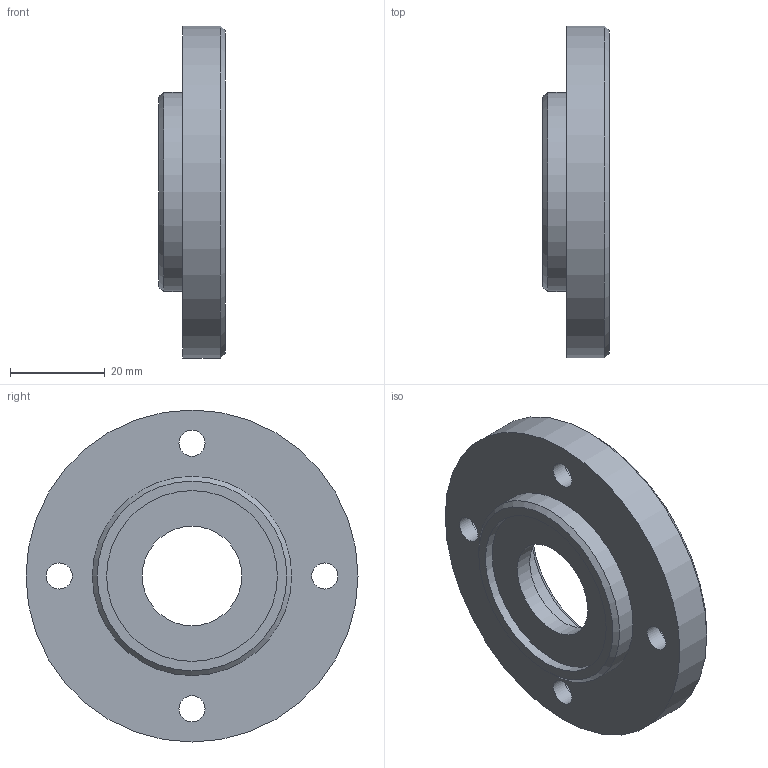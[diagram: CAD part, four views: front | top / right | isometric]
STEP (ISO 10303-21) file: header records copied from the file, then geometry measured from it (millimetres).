
FILE_DESCRIPTION(/* description */ (''),/* implementation_level */ '2;1');
FILE_NAME(/* name */ '',/* time_stamp */ '2024-09-10T16:17:33+09:00',/* author */ ('jhkim'),/* organization */ (''),/* preprocessor_version */ 'ST-DEVELOPER v20',/* originating_system */ 'Autodesk Inventor 2025',/* authorisation */ '');
FILE_SCHEMA (('AUTOMOTIVE_DESIGN { 1 0 10303 214 3 1 1 }'));
Length unit declared in the file: millimetre
Products named in the file (1): 커버
Bounding box: 14 x 70 x 70 mm (x, y, z)
Volume: 28007.7 mm3; surface area: 11509.6 mm2
Topology: 1 solids, 1 shells, 26 faces, 48 edges, 31 vertices
Faces by surface type: cylinder 13, plane 9, cone 3, torus 1
Full cylindrical faces by diameter (mm): 5.5 x4, 10 x4, 21 x1, 35 x1, 36 x1, 42 x1, 70 x1
Entity records: 723 total; most frequent: DIRECTION 134, CARTESIAN_POINT 106, ORIENTED_EDGE 96, AXIS2_PLACEMENT_3D 59, EDGE_CURVE 48, EDGE_LOOP 43, CIRCLE 32, VERTEX_POINT 31
